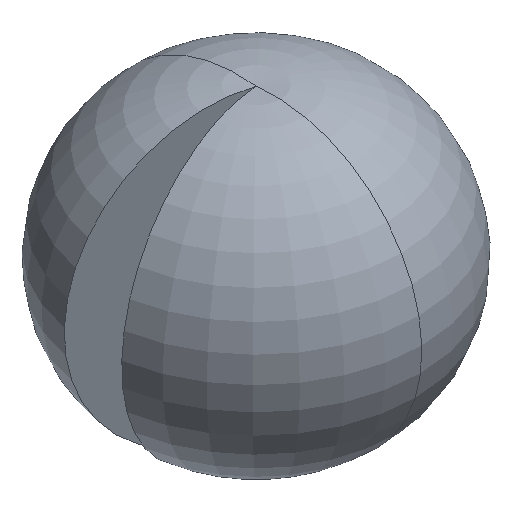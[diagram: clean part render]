
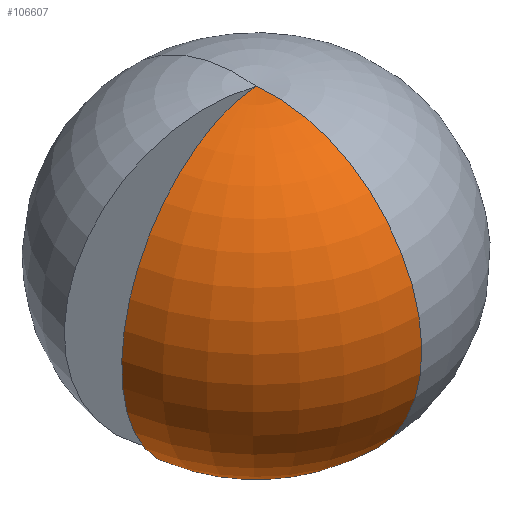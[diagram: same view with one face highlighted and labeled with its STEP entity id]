
A CAD part, isometric view. The second image highlights one B-rep face of the part: STEP entity #106607.
In plain terms, the highlighted toroidal (fillet/blend) face has major radius 320.127 mm and minor radius 2680.37 mm.
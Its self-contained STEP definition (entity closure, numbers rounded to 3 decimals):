
#6720 = CARTESIAN_POINT ( 'NONE',  ( 0., 0., 3331.185 ) ) ;
#13771 = CARTESIAN_POINT ( 'NONE',  ( 0., -320.127, 670. ) ) ;
#16767 = DIRECTION ( 'NONE',  ( -1., 0., 0. ) ) ;
#18029 = CARTESIAN_POINT ( 'NONE',  ( 0., 0., 670. ) ) ;
#27885 = AXIS2_PLACEMENT_3D ( 'NONE', #214242, #233888, #28758 ) ;
#28700 = VERTEX_POINT ( 'NONE', #282876 ) ;
#28758 = DIRECTION ( 'NONE',  ( -0.985, -0.174, 0. ) ) ;
#29161 = VERTEX_POINT ( 'NONE', #6720 ) ;
#46892 = EDGE_CURVE ( 'NONE', #163954, #29161, #266698, .T. ) ;
#56845 = CIRCLE ( 'NONE', #244545, 1857.524 ) ;
#68101 = CARTESIAN_POINT ( 'NONE',  ( 0., -1857.524, -1525.631 ) ) ;
#89145 = ORIENTED_EDGE ( 'NONE', *, *, #46892, .T. ) ;
#96560 = TOROIDAL_SURFACE ( 'NONE', #240942, 320.127, 2680.371 ) ;
#106607 = ADVANCED_FACE ( 'NONE', ( #290971 ), #96560, .T. ) ;
#119476 = CARTESIAN_POINT ( 'NONE',  ( 0., 0., -1525.631 ) ) ;
#139763 = ORIENTED_EDGE ( 'NONE', *, *, #197852, .T. ) ;
#144370 = ORIENTED_EDGE ( 'NONE', *, *, #220496, .F. ) ;
#163954 = VERTEX_POINT ( 'NONE', #68101 ) ;
#175268 = AXIS2_PLACEMENT_3D ( 'NONE', #13771, #16767, #199237 ) ;
#188827 = DIRECTION ( 'NONE',  ( 0., -1., 0. ) ) ;
#197852 = EDGE_CURVE ( 'NONE', #28700, #163954, #56845, .T. ) ;
#199237 = DIRECTION ( 'NONE',  ( 0., -1., 0. ) ) ;
#200115 = EDGE_LOOP ( 'NONE', ( #139763, #89145, #144370 ) ) ;
#211403 = DIRECTION ( 'NONE',  ( 0., 0., 1. ) ) ;
#214242 = CARTESIAN_POINT ( 'NONE',  ( -315.264, -55.589, 670. ) ) ;
#215802 = CIRCLE ( 'NONE', #27885, 2680.371 ) ;
#220496 = EDGE_CURVE ( 'NONE', #28700, #29161, #215802, .T. ) ;
#224577 = DIRECTION ( 'NONE',  ( 0., -1., 0. ) ) ;
#233888 = DIRECTION ( 'NONE',  ( -0.174, 0.985, 0. ) ) ;
#240942 = AXIS2_PLACEMENT_3D ( 'NONE', #18029, #269807, #224577 ) ;
#244545 = AXIS2_PLACEMENT_3D ( 'NONE', #119476, #211403, #188827 ) ;
#266698 = CIRCLE ( 'NONE', #175268, 2680.371 ) ;
#269807 = DIRECTION ( 'NONE',  ( 0., 0., 1. ) ) ;
#282876 = CARTESIAN_POINT ( 'NONE',  ( -1829.304, -322.556, -1525.631 ) ) ;
#290971 = FACE_OUTER_BOUND ( 'NONE', #200115, .T. ) ;
